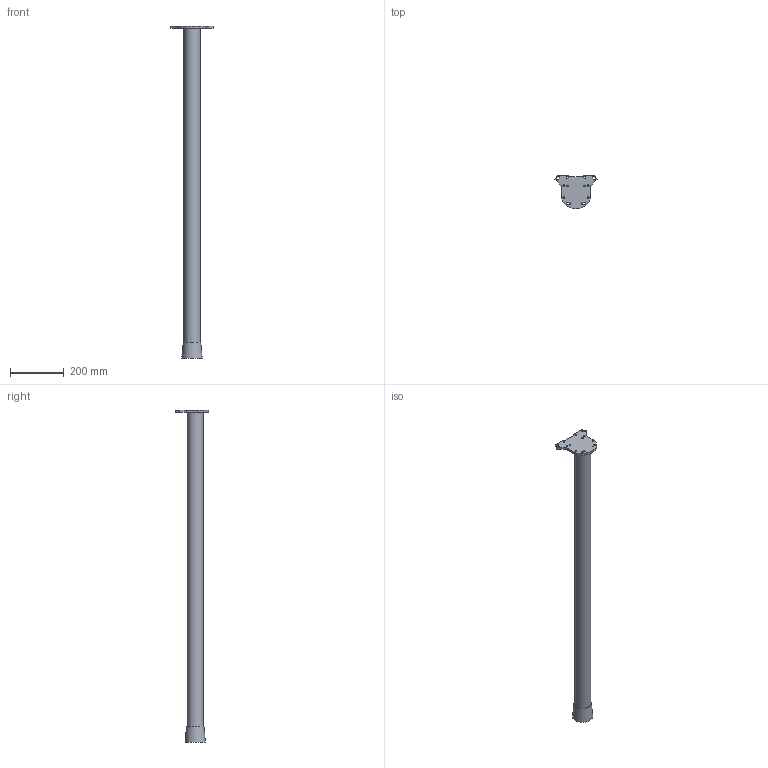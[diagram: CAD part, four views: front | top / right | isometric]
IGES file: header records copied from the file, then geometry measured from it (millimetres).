
Start section: Data from Parasolid IGES Translator 20.0.26, Copyright(c) 2006 Siemens P LM Software. All Rights Reserved.
Global section: file name: 46048.igs; native system: By Siemens PLM Incorporated; preprocessor: XPlus GENERIC/IGES 20.0.26; author: Noname; organization: Noname; date: 20210810.181302; units: millimetre
Bounding box: 155.69 x 124 x 1230 mm (x, y, z)
Surface area: 265601.7 mm2 (no closed solid volume)
Topology: 0 solids, 0 shells, 46 faces, 252 edges, 236 vertices
Faces by surface type: revolution 23, extrusion 23
